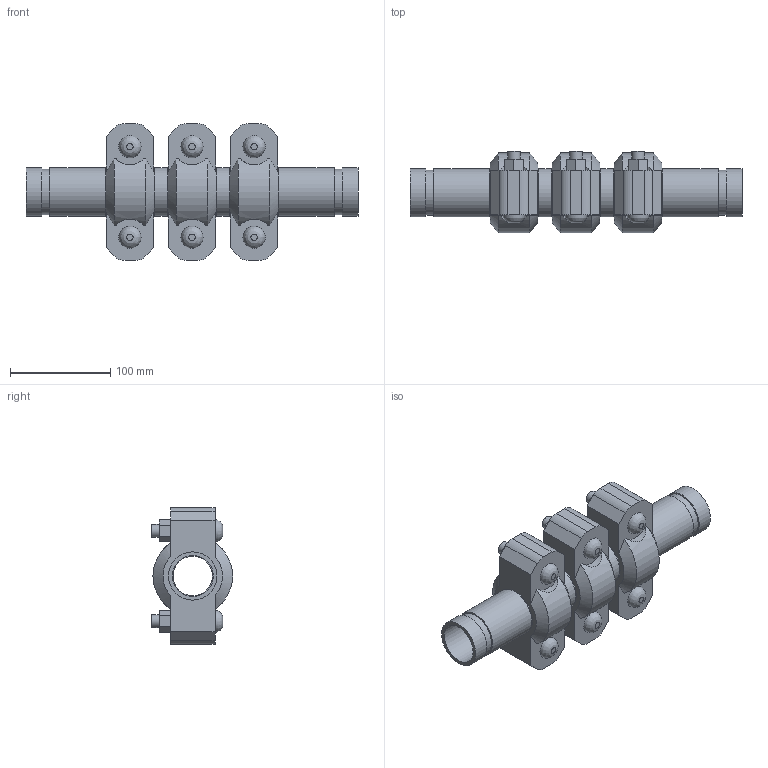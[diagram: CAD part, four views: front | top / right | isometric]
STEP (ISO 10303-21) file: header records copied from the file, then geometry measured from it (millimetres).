
FILE_DESCRIPTION(/* description */ ('VIC EXPANSION JOINT 3 COUPLINGS EXPANDED STYLE 155 (OGS)','CAx-IF Rec.Pracs.---Representation and Presentation of Product Manufacturing Information (PMI)---4.0---2014-10-13'),/* implementation_level */ '2;1');
FILE_NAME(/* name */ 'C:\Users\kkamble\AppData\Roaming\Autodesk\ApplicationPlugins\Victaulic.Temp\A258\Victaulic_IPS_Expansion Joint_Expanded_3 Couplings_Style 155 (OGS)_1.5 (40).stp',/* time_stamp */ '2021-06-26T23:58:06+02:00',/* author */ ('kkamble'),/* organization */ ('Victaulic'),/* preprocessor_version */ 'ST-DEVELOPER v17.2',/* originating_system */ 'Autodesk Inventor 2019',/* authorisation */ '');
FILE_SCHEMA (('AP242_MANAGED_MODEL_BASED_3D_ENGINEERING_MIM_LF { 1 0 10303 442 1 1 4 }'));
Length unit declared in the file: inch
Products named in the file (4): 155-01.5; Nipple-01.5; Nipple-01.5_1; 077-01.5
Assembly tree (7 placements, depth 2):
  155-01.5
    Nipple-01.5  x2
    Nipple-01.5_1  x2
    077-01.5  x3
Bounding box: 331.47 x 81.03 x 136.65 mm (x, y, z)
Volume: 946218 mm3; surface area: 236437.2 mm2
Topology: 7 solids, 13 shells, 231 faces, 555 edges, 390 vertices
Faces by surface type: plane 132, cylinder 81, cone 12, bspline 6
Full cylindrical faces by diameter (mm): 12.7 x12, 14.605 x6, 39.37 x3, 40.894 x4, 45.085 x8, 48.26 x18
Entity records: 2985 total; most frequent: CARTESIAN_POINT 599, DIRECTION 477, ORIENTED_EDGE 410, EDGE_CURVE 205, AXIS2_PLACEMENT_3D 190, VERTEX_POINT 146, EDGE_LOOP 111, LINE 97
